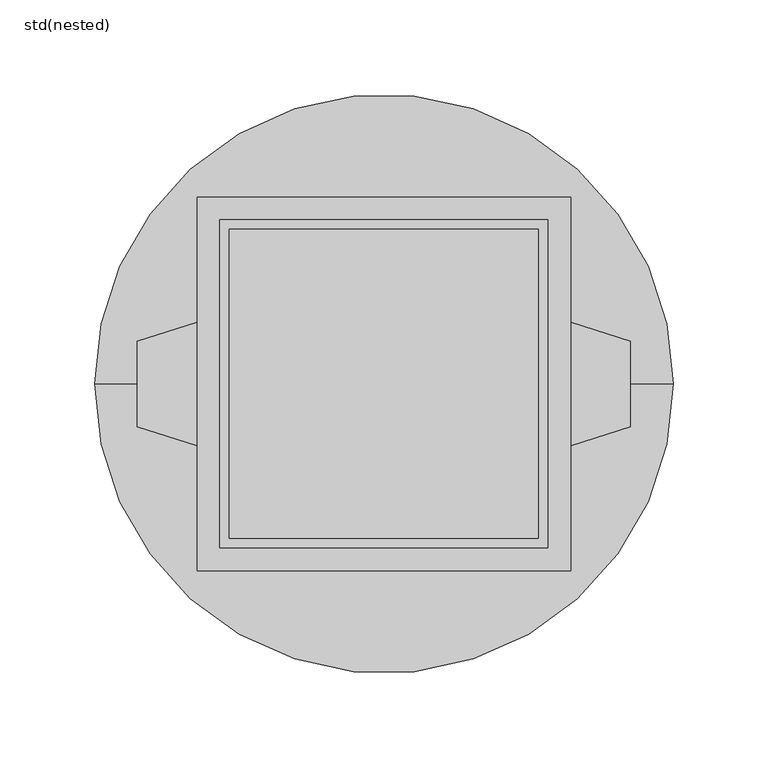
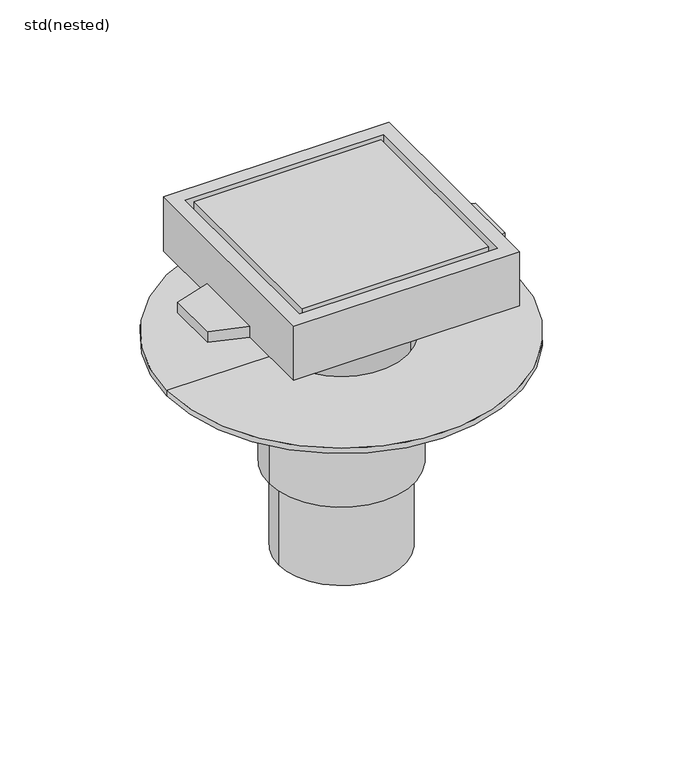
"""IFC4 building model written with IfcOpenShell, lengths in millimetres: sanitary terminal geometry, ZZZ_do not use_PF_ST_Finor castiron round_ACO : std(nested)."""

from ifc_helpers import new_model, si_unit, frame, origin, place, context, project, spatial, polyline, circle_curve, outline, extrude, source, transform, mapped, element, save
from ifc_brep_helpers import plane_surface, cylinder_surface, revolved_surface, advanced_brep


def std_nested_e042f86d(model_context):
    return source(origin(), model_context, "Body", "SolidModel", [
        extrude(outline(polyline([(81.5, 81.5), (81.5, -81.5), (-81.5, -81.5), (-81.5, 81.5), (81.5, 81.5)])), frame((0.0, 0.0, -22.0), z_axis=(0.0, 0.0, 1.0), x_axis=(1.0, 0.0, 0.0)), (0.0, 0.0, 1.0), 22.0),
        advanced_brep(
        [(152.5, 0.0, -100.0), (-152.5, 0.0, -100.0), (-58.25, 0.0, -100.0), (58.25, 0.0, -100.0), (152.5, 0.0, -105.0), (-152.5, 0.0, -105.0), (50.0, 0.0, -295.0), (-50.0, 0.0, -295.0), (-55.0, 0.0, -295.0), (55.0, 0.0, -295.0), (50.0, 0.0, -212.0), (-50.0, 0.0, -212.0), (58.25, 0.0, -212.0), (-58.25, 0.0, -212.0), (63.25, 0.0, -105.0), (-63.25, 0.0, -105.0), (63.25, 0.0, -217.0), (-63.25, 0.0, -217.0), (55.0, 0.0, -217.0), (-55.0, 0.0, -217.0)],
        [
            (0, 1, circle_curve(frame((0.0, 0.0, -100.0), z_axis=(0.0, 0.0, 1.0), x_axis=(-1.0, 0.0, 0.0)), 152.5)),
            (1, 2),
            (2, 3, circle_curve(frame((0.0, 0.0, -100.0), z_axis=(0.0, 0.0, -1.0), x_axis=(-1.0, 0.0, 0.0)), 58.25)),
            (3, 0),
            (1, 0, circle_curve(frame((0.0, 0.0, -100.0), z_axis=(0.0, 0.0, 1.0), x_axis=(-1.0, 0.0, 0.0)), 152.5)),
            (3, 2, circle_curve(frame((0.0, 0.0, -100.0), z_axis=(0.0, 0.0, -1.0), x_axis=(-1.0, 0.0, 0.0)), 58.25)),
            (4, 5, circle_curve(frame((0.0, 0.0, -105.0), z_axis=(0.0, 0.0, 1.0), x_axis=(-1.0, 0.0, 0.0)), 152.5)),
            (5, 1),
            (0, 4),
            (5, 4, circle_curve(frame((0.0, 0.0, -105.0), z_axis=(0.0, 0.0, 1.0), x_axis=(-1.0, 0.0, 0.0)), 152.5)),
            (6, 7, circle_curve(frame((0.0, 0.0, -295.0), z_axis=(0.0, 0.0, 1.0), x_axis=(-1.0, 0.0, 0.0)), 50.0)),
            (7, 8),
            (8, 9, circle_curve(frame((0.0, 0.0, -295.0), z_axis=(0.0, 0.0, -1.0), x_axis=(-1.0, 0.0, 0.0)), 55.0)),
            (9, 6),
            (7, 6, circle_curve(frame((0.0, 0.0, -295.0), z_axis=(0.0, 0.0, 1.0), x_axis=(-1.0, 0.0, 0.0)), 50.0)),
            (9, 8, circle_curve(frame((0.0, 0.0, -295.0), z_axis=(0.0, 0.0, -1.0), x_axis=(-1.0, 0.0, 0.0)), 55.0)),
            (10, 11, circle_curve(frame((0.0, 0.0, -212.0), z_axis=(0.0, 0.0, 1.0), x_axis=(-1.0, 0.0, 0.0)), 50.0)),
            (11, 7),
            (6, 10),
            (11, 10, circle_curve(frame((0.0, 0.0, -212.0), z_axis=(0.0, 0.0, 1.0), x_axis=(-1.0, 0.0, 0.0)), 50.0)),
            (12, 13, circle_curve(frame((0.0, 0.0, -212.0), z_axis=(0.0, 0.0, 1.0), x_axis=(-1.0, 0.0, 0.0)), 58.25)),
            (13, 11),
            (10, 12),
            (13, 12, circle_curve(frame((0.0, 0.0, -212.0), z_axis=(0.0, 0.0, 1.0), x_axis=(-1.0, 0.0, 0.0)), 58.25)),
            (2, 13),
            (12, 3),
            (14, 15, circle_curve(frame((0.0, 0.0, -105.0), z_axis=(0.0, 0.0, 1.0), x_axis=(-1.0, 0.0, 0.0)), 63.25)),
            (15, 5),
            (4, 14),
            (15, 14, circle_curve(frame((0.0, 0.0, -105.0), z_axis=(0.0, 0.0, 1.0), x_axis=(-1.0, 0.0, 0.0)), 63.25)),
            (16, 17, circle_curve(frame((0.0, 0.0, -217.0), z_axis=(0.0, 0.0, 1.0), x_axis=(-1.0, 0.0, 0.0)), 63.25)),
            (17, 15),
            (14, 16),
            (17, 16, circle_curve(frame((0.0, 0.0, -217.0), z_axis=(0.0, 0.0, 1.0), x_axis=(-1.0, 0.0, 0.0)), 63.25)),
            (18, 19, circle_curve(frame((0.0, 0.0, -217.0), z_axis=(0.0, 0.0, 1.0), x_axis=(-1.0, 0.0, 0.0)), 55.0)),
            (19, 17),
            (16, 18),
            (19, 18, circle_curve(frame((0.0, 0.0, -217.0), z_axis=(0.0, 0.0, 1.0), x_axis=(-1.0, 0.0, 0.0)), 55.0)),
            (8, 19),
            (18, 9),
        ],
        [
            plane_surface(frame((0.0, 0.0, -100.0), z_axis=(0.0, 0.0, 1.0), x_axis=(-1.0, 0.0, 0.0))),
            cylinder_surface(frame((0.0, 0.0, -59.6357575), z_axis=(0.0, 0.0, -1.0), x_axis=(-1.0, 0.0, 0.0)), 152.5),
            plane_surface(frame((0.0, 0.0, -295.0), z_axis=(0.0, 0.0, -1.0), x_axis=(-1.0, 0.0, 0.0))),
            revolved_surface(polyline([(-50.0, 0.0, -295.0), (-50.0, 0.0, -212.0)]), (0.0, 0.0, -59.6357575), (0.0, 0.0, -1.0)),
            plane_surface(frame((0.0, 0.0, -212.0), z_axis=(0.0, 0.0, 1.0), x_axis=(-1.0, 0.0, 0.0))),
            revolved_surface(polyline([(-58.25, 0.0, -212.0), (-58.25, 0.0, -100.0)]), (0.0, 0.0, -59.6357575), (0.0, 0.0, -1.0)),
            plane_surface(frame((0.0, 0.0, -105.0), z_axis=(0.0, 0.0, -1.0), x_axis=(-1.0, 0.0, 0.0))),
            cylinder_surface(frame((0.0, 0.0, -59.6357575), z_axis=(0.0, 0.0, -1.0), x_axis=(-1.0, 0.0, 0.0)), 63.25),
            plane_surface(frame((0.0, 0.0, -217.0), z_axis=(0.0, 0.0, -1.0), x_axis=(-1.0, 0.0, 0.0))),
            cylinder_surface(frame((0.0, 0.0, -59.6357575), z_axis=(0.0, 0.0, -1.0), x_axis=(-1.0, 0.0, 0.0)), 55.0),
        ],
        [
            (0, [[1, 2, 3, 4]]),
            (0, [[5, -4, 6, -2]]),
            (1, [[7, 8, -1, 9]]),
            (1, [[10, -9, -5, -8]]),
            (2, [[11, 12, 13, 14]]),
            (2, [[15, -14, 16, -12]]),
            (3, [[17, 18, -11, 19]]),
            (3, [[20, -19, -15, -18]]),
            (4, [[21, 22, -17, 23]]),
            (4, [[24, -23, -20, -22]]),
            (5, [[-3, 25, -21, 26]]),
            (5, [[-6, -26, -24, -25]]),
            (6, [[27, 28, -7, 29]]),
            (6, [[30, -29, -10, -28]]),
            (7, [[31, 32, -27, 33]]),
            (7, [[34, -33, -30, -32]]),
            (8, [[35, 36, -31, 37]]),
            (8, [[38, -37, -34, -36]]),
            (9, [[-13, 39, -35, 40]]),
            (9, [[-16, -40, -38, -39]]),
        ],
    ),
        advanced_brep(
        [(98.5, -98.5, -50.0), (-98.5, -98.5, -50.0), (-98.5, -32.5, -50.0), (-130.0, -22.5, -50.0), (-130.0, 22.5, -50.0), (-98.5, 32.5, -50.0), (-98.5, 98.5, -50.0), (98.5, 98.5, -50.0), (98.5, 32.5, -50.0), (130.0, 22.5, -50.0), (130.0, -22.5, -50.0), (98.5, -32.5, -50.0), (52.25, 0.0, -50.0), (-52.25, 0.0, -50.0), (-47.25, 0.0, -50.0), (47.25, 0.0, -50.0), (98.5, 98.5, 0.0), (-98.5, 98.5, 0.0), (-98.5, -98.5, 0.0), (98.5, -98.5, 0.0), (-86.5, 86.5, 0.0), (86.5, 86.5, 0.0), (86.5, -86.5, 0.0), (-86.5, -86.5, 0.0), (-98.5, 32.5, -40.0), (-98.5, -32.5, -40.0), (98.5, -32.5, -40.0), (98.5, 32.5, -40.0), (-130.0, 22.5, -40.0), (-130.0, -22.5, -40.0), (130.0, 22.5, -40.0), (130.0, -22.5, -40.0), (-52.25, 0.0, -175.0), (52.25, 0.0, -175.0), (-47.25, 0.0, -175.0), (47.25, 0.0, -175.0), (86.5, 86.5, -40.0), (-86.5, 86.5, -40.0), (-86.5, -86.5, -40.0), (86.5, -86.5, -40.0), (-81.5, 81.5, -40.0), (81.5, 81.5, -40.0), (81.5, -81.5, -40.0), (-81.5, -81.5, -40.0), (-81.5, 81.5, -22.0), (81.5, 81.5, -22.0), (81.5, -81.5, -22.0), (-81.5, -81.5, -22.0)],
        [
            (0, 1),
            (1, 2),
            (2, 3),
            (3, 4),
            (4, 5),
            (5, 6),
            (6, 7),
            (7, 8),
            (8, 9),
            (9, 10),
            (10, 11),
            (11, 0),
            (12, 13, circle_curve(frame((0.0, 0.0, -50.0), z_axis=(0.0, 0.0, 1.0), x_axis=(1.0, 0.0, 0.0)), 52.25)),
            (13, 12, circle_curve(frame((0.0, 0.0, -50.0), z_axis=(0.0, 0.0, 1.0), x_axis=(1.0, 0.0, 0.0)), 52.25)),
            (14, 15, circle_curve(frame((0.0, 0.0, -50.0), z_axis=(0.0, 0.0, -1.0), x_axis=(1.0, 0.0, 0.0)), 47.25)),
            (15, 14, circle_curve(frame((0.0, 0.0, -50.0), z_axis=(0.0, 0.0, -1.0), x_axis=(1.0, 0.0, 0.0)), 47.25)),
            (16, 17),
            (17, 18),
            (18, 19),
            (19, 16),
            (20, 21),
            (21, 22),
            (22, 23),
            (23, 20),
            (6, 17),
            (16, 7),
            (5, 24),
            (24, 25),
            (25, 2),
            (1, 18),
            (0, 19),
            (11, 26),
            (26, 27),
            (27, 8),
            (24, 28),
            (28, 29),
            (29, 25),
            (30, 27),
            (26, 31),
            (31, 30),
            (4, 28),
            (3, 29),
            (30, 9),
            (10, 31),
            (32, 33, circle_curve(frame((0.0, 0.0, -175.0), z_axis=(0.0, 0.0, -1.0), x_axis=(1.0, 0.0, 0.0)), 52.25)),
            (33, 32, circle_curve(frame((0.0, 0.0, -175.0), z_axis=(0.0, 0.0, -1.0), x_axis=(1.0, 0.0, 0.0)), 52.25)),
            (34, 35, circle_curve(frame((0.0, 0.0, -175.0), z_axis=(0.0, 0.0, 1.0), x_axis=(1.0, 0.0, 0.0)), 47.25)),
            (35, 34, circle_curve(frame((0.0, 0.0, -175.0), z_axis=(0.0, 0.0, 1.0), x_axis=(1.0, 0.0, 0.0)), 47.25)),
            (32, 13),
            (12, 33),
            (35, 15),
            (14, 34),
            (36, 37),
            (37, 38),
            (38, 39),
            (39, 36),
            (40, 41),
            (41, 42),
            (42, 43),
            (43, 40),
            (36, 21),
            (20, 37),
            (23, 38),
            (22, 39),
            (40, 44),
            (44, 45),
            (45, 41),
            (45, 46),
            (46, 42),
            (46, 47),
            (47, 43),
            (47, 44),
        ],
        [
            plane_surface(frame((-537.3468112, 98.5, -50.0), z_axis=(0.0, 0.0, -1.0), x_axis=(1.0, 0.0, 0.0))),
            plane_surface(frame((-537.3468112, 98.5, 0.0), z_axis=(0.0, 0.0, 1.0), x_axis=(-1.0, 0.0, 0.0))),
            plane_surface(frame((98.5, 98.5, 0.0), z_axis=(0.0, 1.0, 0.0), x_axis=(0.0, 0.0, -1.0))),
            plane_surface(frame((-98.5, 98.5, 0.0), z_axis=(-1.0, 0.0, 0.0), x_axis=(0.0, 0.0, -1.0))),
            plane_surface(frame((-98.5, -98.5, 0.0), z_axis=(0.0, -1.0, 0.0), x_axis=(0.0, 0.0, -1.0))),
            plane_surface(frame((98.5, -98.5, 0.0), z_axis=(1.0, 0.0, 0.0), x_axis=(0.0, 0.0, -1.0))),
            plane_surface(frame((-130.0, 22.5, -40.0), z_axis=(0.0, 0.0, 1.0), x_axis=(-0.953124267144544, -0.3025791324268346, 0.0))),
            plane_surface(frame((-98.5, 32.5, -40.0), z_axis=(-0.3025791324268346, 0.953124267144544, 0.0), x_axis=(0.0, 0.0, -1.0))),
            plane_surface(frame((-130.0, 22.5, -40.0), z_axis=(-1.0, 0.0, 0.0), x_axis=(0.0, 0.0, -1.0))),
            plane_surface(frame((-130.0, -22.5, -40.0), z_axis=(-0.302579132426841, -0.953124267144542, 0.0), x_axis=(0.0, 0.0, -1.0))),
            plane_surface(frame((130.0, 22.5, -40.0), z_axis=(0.30257913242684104, 0.953124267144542, 0.0), x_axis=(0.0, 0.0, -1.0))),
            plane_surface(frame((98.5, -32.5, -40.0), z_axis=(0.30257913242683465, -0.953124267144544, 0.0), x_axis=(0.0, 0.0, -1.0))),
            plane_surface(frame((130.0, -22.5, -40.0), z_axis=(1.0, 0.0, 0.0), x_axis=(0.0, 0.0, -1.0))),
            plane_surface(frame((52.25, 0.0, -175.0), z_axis=(0.0, 0.0, -1.0), x_axis=(0.0, -1.0, 0.0))),
            cylinder_surface(frame((0.0, 0.0, -175.0), z_axis=(0.0, 0.0, 1.0), x_axis=(1.0, 0.0, 0.0)), 52.25),
            revolved_surface(polyline([(47.25, 0.0, -175.0), (47.25, 0.0, -50.0)]), (0.0, 0.0, 0.0), (0.0, 0.0, -1.0)),
            plane_surface(frame((-86.8999291, 86.5, -40.0), z_axis=(0.0, 0.0, 1.0), x_axis=(1.0, 0.0, 0.0))),
            plane_surface(frame((86.5, 86.5, 0.0), z_axis=(0.0, -1.0, 0.0), x_axis=(0.0, 0.0, -1.0))),
            plane_surface(frame((-86.5, 86.5, 0.0), z_axis=(1.0, 0.0, 0.0), x_axis=(0.0, 0.0, -1.0))),
            plane_surface(frame((-86.5, -86.5, 0.0), z_axis=(0.0, 1.0, 0.0), x_axis=(0.0, 0.0, -1.0))),
            plane_surface(frame((86.5, -86.5, 0.0), z_axis=(-1.0, 0.0, 0.0), x_axis=(0.0, 0.0, -1.0))),
            plane_surface(frame((-81.5, 81.5, 0.0), z_axis=(0.0, 1.0, 0.0), x_axis=(0.0, 0.0, -1.0))),
            plane_surface(frame((81.5, 81.5, 0.0), z_axis=(1.0, 0.0, 0.0), x_axis=(0.0, 0.0, -1.0))),
            plane_surface(frame((81.5, -81.5, 0.0), z_axis=(0.0, -1.0, 0.0), x_axis=(0.0, 0.0, -1.0))),
            plane_surface(frame((-81.5, -81.5, 0.0), z_axis=(-1.0, 0.0, 0.0), x_axis=(0.0, 0.0, -1.0))),
            plane_surface(frame((-72.1892958, 81.5, -22.0), z_axis=(0.0, 0.0, 1.0), x_axis=(1.0, 0.0, 0.0))),
        ],
        [
            (0, [[1, 2, 3, 4, 5, 6, 7, 8, 9, 10, 11, 12], [13, 14]]),
            (0, [[15, 16]]),
            (1, [[17, 18, 19, 20], [21, 22, 23, 24]]),
            (2, [[-7, 25, -17, 26]]),
            (3, [[-18, -25, -6, 27, 28, 29, -2, 30]]),
            (4, [[-1, 31, -19, -30]]),
            (5, [[-20, -31, -12, 32, 33, 34, -8, -26]]),
            (6, [[35, 36, 37, -28]]),
            (6, [[38, -33, 39, 40]]),
            (7, [[-5, 41, -35, -27]]),
            (8, [[-4, 42, -36, -41]]),
            (9, [[-3, -29, -37, -42]]),
            (10, [[-9, -34, -38, 43]]),
            (11, [[-11, 44, -39, -32]]),
            (12, [[-10, -43, -40, -44]]),
            (13, [[45, 46], [47, 48]]),
            (14, [[-45, 49, -13, 50]]),
            (14, [[-46, -50, -14, -49]]),
            (15, [[-48, 51, -15, 52]]),
            (15, [[-47, -52, -16, -51]]),
            (16, [[53, 54, 55, 56], [57, 58, 59, 60]]),
            (17, [[-53, 61, -21, 62]]),
            (18, [[-54, -62, -24, 63]]),
            (19, [[-55, -63, -23, 64]]),
            (20, [[-56, -64, -22, -61]]),
            (21, [[-57, 65, 66, 67]]),
            (22, [[-58, -67, 68, 69]]),
            (23, [[-59, -69, 70, 71]]),
            (24, [[-60, -71, 72, -65]]),
            (25, [[-66, -72, -70, -68]]),
        ],
    ),
    ])


if __name__ == "__main__":
    model = new_model("IFC4")
    model_context = context("Model", 3, world=origin())
    ifc_project = project(units=[si_unit("LENGTHUNIT", "METRE", prefix="MILLI")], contexts=[model_context])
    site = spatial("IfcSite", under=ifc_project)
    building = spatial("IfcBuilding", under=site)
    placement = place(None, origin())
    std_nested_shape = std_nested_e042f86d(model_context)
    element("IfcSanitaryTerminal", 1, ObjectType="ZZZ_do not use_PF_ST_Finor castiron round_ACO : std(nested)", at=placement, inside=building, context=model_context, shape_type="MappedRepresentation", body=[
        mapped(std_nested_shape, transform((0.0, 0.0, 0.0), x_axis=(1.0, 0.0, 0.0), y_axis=(0.0, 1.0, 0.0), z_axis=(0.0, 0.0, 1.0))),
    ])
    save(model, "model.ifc")
